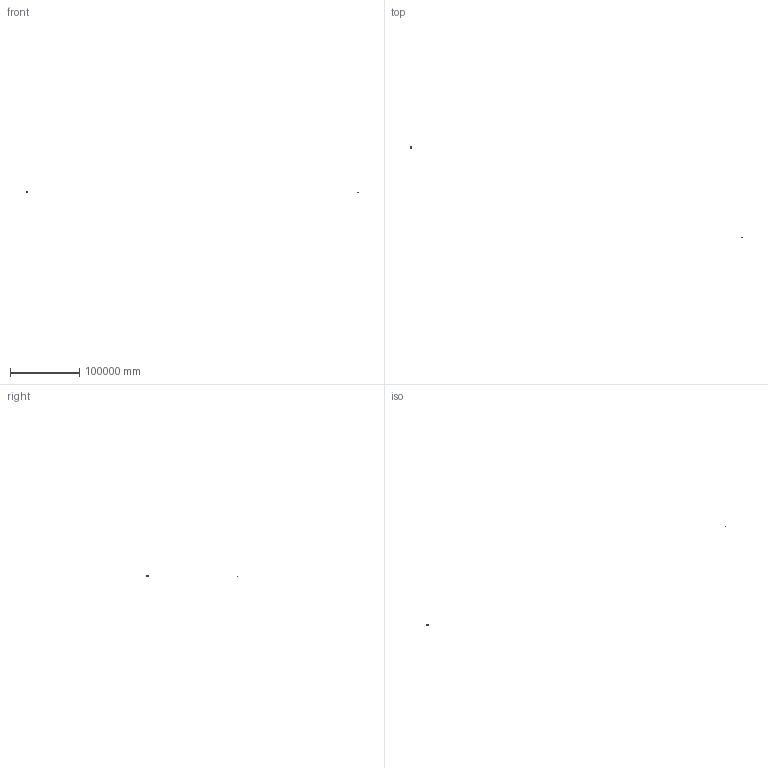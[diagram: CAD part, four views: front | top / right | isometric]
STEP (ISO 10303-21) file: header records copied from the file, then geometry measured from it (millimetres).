
FILE_DESCRIPTION(/* description */ (''),/* implementation_level */ '2;1');
FILE_NAME(/* name */ 'C:\Users\dariusz.kocon\Desktop\00198333_00 - LUIS_LaserBeamTransportSection.stp',/* time_stamp */ '2019-05-20T14:45:55+02:00',/* author */ ('dariusz.kocon'),/* organization */ (''),/* preprocessor_version */ 'ST-DEVELOPER v17',/* originating_system */ 'Autodesk Inventor 2019',/* authorisation */ '');
FILE_SCHEMA (('AUTOMOTIVE_DESIGN { 1 0 10303 214 3 1 1 }'));
Products named in the file (97): 00198333_00 - LUIS_LaserBeamTransportSection; 00198291_00 - BA_Chamber_Mirror_FullAssy; 00198311_00 - BA_Chamber_Mirror; 00198209_00 - BA_Chamber_Mirror_Spiegelkammer; 00198277_00 - BA_Support_MIR; 00198219_00 - BA_Chamber_Trapezspindel 20x4 LD 63-400; 00023983_- - Hex Nut_ 1A_ DIN_M8x1_25; 00037389_- - Plain Washer_ DIN_8; 00198238_00 - BA_Chamber_DIN6885_ Paßfeder hohe FormA_ 3x3_ l13; 00198226_00 - BA_Chamber_Handwheel DIN 950-GG-100-K10-D; 00212000_00 - BA_Chamber_Spacer; 00211903_00 - BA_Chamber_Bock 3; 00198213_00 - BA_Chamber_Lagerbock 2 unten; 00198357_00 - BA_Chamber_Laufbock2_CL10; 00211942_- - SKF PCM 303440 B; 00211998_00 - BA_Chamber_Ring; 00198153_00 - BA_Chamber_Lager_Abstandshülse; 00198398_00 - BA_Chamber_Lagerbock 1; 00211999_00 - BA_Chamber_Bearing; 00198409_00 - BA_Chamber_Welle 25; 00211935_00 - BA_Chamber_Rod_Holder; 00024458_- - Hex Socket C-sunk Head Screw_ DIN_M8x20; 00037391_- - Plain Washer_ DIN_12; 00024640_- - Hex Socket Head Cap Screw_ DIN; 00212283_- - Trapezoidal Nut Tr. 20 x 4 type 64477120; 00198387_00 - BA_Chamber_CFEL-Werle_MIR; 00198399_00 - BA_Chamber_Rohr_MIR; 00198316_00 - BA_Chamber_Deckel_MIR; 00198221_00 - BA_Chamber_Rohr 129 x 3_MIR; 00198470_00 - BA_Chamber_254 x 3_MIR; 00198163_00 - Flange CF 400; 00198253_00 - BA_Chamber_CAF 160 mod_MIR; 00198205_00 - AlignmentMark_FlangeHolder_CF160; 00198198_00 - AlignmentMark_FlangeHolder_CF400; 00198215_00 - BA_Chamber_Fußplatte; 00198252_00 - BA_Chamber_Fußknoten-2; 00212063_00 - BA_Chamber_Reinforcement; 00216036_- - Flange CF 100 VACOM F100B104-316; 00216002_00 - Flange CF 250 VACOM F250B254-316; 00216041_00 - BA_Chamber_Rohr_2_MIR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
Assembly tree (190 placements, depth 7):
  00198333_00 - LUIS_LaserBeamTransportSection
    00198291_00 - BA_Chamber_Mirror_FullAssy
      00198311_00 - BA_Chamber_Mirror
        00198209_00 - BA_Chamber_Mirror_Spiegelkammer
          00198277_00 - BA_Support_MIR
            00198219_00 - BA_Chamber_Trapezspindel 20x4 LD 63-400
            00023983_- - Hex Nut_ 1A_ DIN_M8x1_25
            00037389_- - Plain Washer_ DIN_8
            00198238_00 - BA_Chamber_DIN6885_ Paßfeder hohe FormA_ 3x3_ l13
            00198226_00 - BA_Chamber_Handwheel DIN 950-GG-100-K10-D
            00198357_00 - BA_Chamber_Laufbock2_CL10  x2
            00212000_00 - BA_Chamber_Spacer
            00198409_00 - BA_Chamber_Welle 25  x2
            00211903_00 - BA_Chamber_Bock 3
            00211935_00 - BA_Chamber_Rod_Holder  x5
            00211998_00 - BA_Chamber_Ring  x2
            00211942_- - SKF PCM 303440 B  x4
            00198153_00 - BA_Chamber_Lager_Abstandshülse  x2
            00198213_00 - BA_Chamber_Lagerbock 2 unten
            00211999_00 - BA_Chamber_Bearing  x2
            00198398_00 - BA_Chamber_Lagerbock 1
            00024458_- - Hex Socket C-sunk Head Screw_ DIN_M8x20  x4
            00037391_- - Plain Washer_ DIN_12  x12
            00024640_- - Hex Socket Head Cap Screw_ DIN  x12
            00212283_- - Trapezoidal Nut Tr. 20 x 4 type 64477120
          00198387_00 - BA_Chamber_CFEL-Werle_MIR
            00198399_00 - BA_Chamber_Rohr_MIR
            00198316_00 - BA_Chamber_Deckel_MIR
            00198221_00 - BA_Chamber_Rohr 129 x 3_MIR
            00198470_00 - BA_Chamber_254 x 3_MIR
            00198163_00 - Flange CF 400
            00198253_00 - BA_Chamber_CAF 160 mod_MIR
            00198205_00 - AlignmentMark_FlangeHolder_CF160  x2
            00198198_00 - AlignmentMark_FlangeHolder_CF400
            00198252_00 - BA_Chamber_Fußknoten-2  x2
            00198215_00 - BA_Chamber_Fußplatte
            00212063_00 - BA_Chamber_Reinforcement  x2
            00213786_- - Flange CF40 VACOM F40B41-316  x4
            00213789_- - Flange CF 160 VACOM F160B154-316  x2
            00216036_- - Flange CF 100 VACOM F100B104-316
            00215780_- - Flange CF 63 VACOM F63B70-316
            00216002_00 - Flange CF 250 VACOM F250B254-316
            00216045_00 - BA_Chamber_Rohr_6_MIR  x2
            00216044_00 - BA_Chamber_Rohr_5_MIR  x2
            00216041_00 - BA_Chamber_Rohr_2_MIR
            00216043_00 - BA_Chamber_Rohr_4_MIR
            00216042_00 - BA_Chamber_Rohr_3_MIR
            00216040_00 - BA_Chamber_Rohr_1_MIR
          00198266_00 - AlignmentMark_AdapterPlate_1_ELI
          00212042_00 - BA_Chamber_Flange_MODEL
            00198427_00 - BA_Chamber_Schlitten Blindflansch
            00212043_00 - BA_Chamber_Flange_400_MODEL
              00198152_00 - BA_Chamber Rohr 41x1_5  x2
              00198414_00 - BA_Chamber_Flange CF 400
              00198353_00 - BA_Chamber_Rohr 154x2
              00213786_- - Flange CF40 VACOM F40B41-316  x2
              00213789_- - Flange CF 160 VACOM F160B154-316
              00213791_- - Flange CF 100 VACOM  F100WF100-316
          00037392_- - Plain Washer_ DIN_16  x4
          00021974_- - Hex Head Screw_ Grades A_ B_ DIN_M16x30  x4
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Bounding box: 478779.31 x 129967.84 x 724.5 mm (x, y, z)
Volume: 49964510.5 mm3; surface area: 11093349.1 mm2
Topology: 177 solids, 177 shells, 4024 faces, 11549 edges, 7987 vertices
Faces by surface type: cylinder 1696, plane 1212, cone 871, torus 228, sphere 9, bspline 8
Full cylindrical faces by diameter (mm): 4.3 x36, 5 x4, 5.25 x74, 5.795 x4, 6 x10, 6.6 x4, 6.7 x36, 6.8 x105, 6.985 x1, 7 x103, 7.76 x14, 8 x1, 8.4 x433, 9 x11, 10 x6, 10.8 x80, 10.998 x8, 11.701 x12, 12.522 x8, 13 x18, 13.5 x24, 14 x1, 14.5 x4, 15 x10, 16 x23, 16.5 x6, 17.5 x4, 18 x12, 18.5 x7, 19 x10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
Entity records: 180165 total; most frequent: CARTESIAN_POINT 119298, DIRECTION 12625, ORIENTED_EDGE 11418, EDGE_CURVE 5709, AXIS2_PLACEMENT_3D 5345, VERTEX_POINT 4057, EDGE_LOOP 3108, CIRCLE 3089
